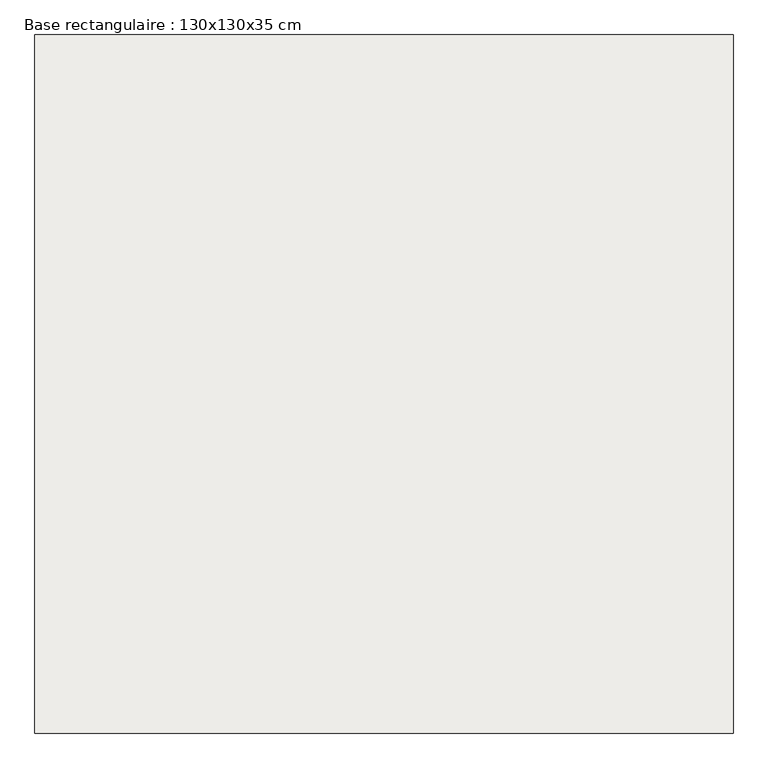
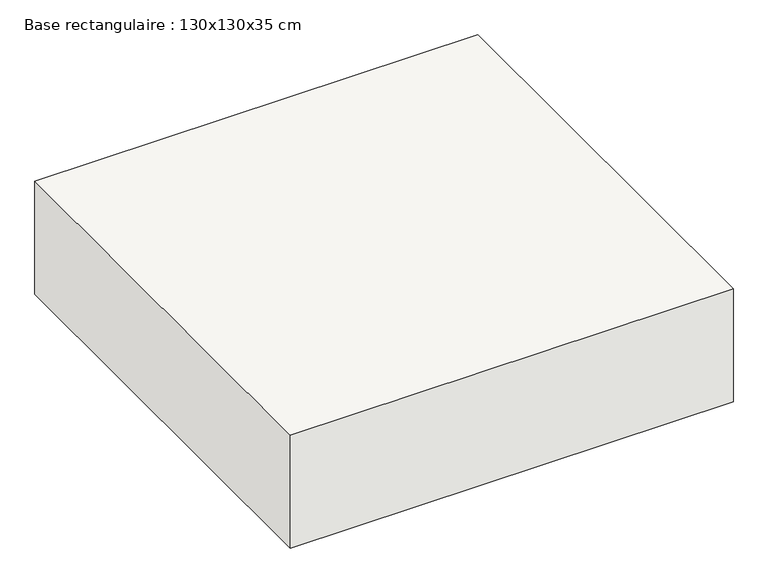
"""IFC4 building model written with IfcOpenShell, lengths in millimetres: slab geometry, Base rectangulaire : 130x130x35 cm."""

from ifc_helpers import new_model, si_unit, frame, origin, place, context, project, spatial, polyline, outline, extrude, source, transform, mapped, element, save


def base_rectangulaire_130x130x35_cm_f800fba0(model_context):
    return source(origin(), model_context, "Body", "SweptSolid", [
        extrude(outline(polyline([(650.0, 650.0), (650.0, -650.0), (-650.0, -650.0), (-650.0, 650.0), (650.0, 650.0)])), frame((0.0, 0.0, -350.0), z_axis=(0.0, 0.0, 1.0), x_axis=(1.0, 0.0, 0.0)), (0.0, 0.0, 1.0), 350.0),
        extrude(outline(polyline([(650.0, 650.0), (650.0, -650.0), (-650.0, -650.0), (-650.0, 650.0), (650.0, 650.0)])), frame((0.0, 0.0, -350.0), z_axis=(0.0, 0.0, 1.0), x_axis=(1.0, 0.0, 0.0)), (0.0, 0.0, 1.0), 350.0),
    ])


if __name__ == "__main__":
    model = new_model("IFC4")
    model_context = context("Model", 3, world=origin())
    ifc_project = project(units=[si_unit("LENGTHUNIT", "METRE", prefix="MILLI")], contexts=[model_context])
    site = spatial("IfcSite", under=ifc_project)
    building = spatial("IfcBuilding", under=site)
    placement = place(None, origin())
    base_rectangulaire_130x130x35_cm_shape = base_rectangulaire_130x130x35_cm_f800fba0(model_context)
    element("IfcSlab", 1, ObjectType="Base rectangulaire : 130x130x35 cm", at=placement, inside=building, context=model_context, shape_type="MappedRepresentation", body=[
        mapped(base_rectangulaire_130x130x35_cm_shape, transform((0.0, 0.0, 0.0), x_axis=(1.0, 0.0, 0.0), y_axis=(0.0, 1.0, 0.0), z_axis=(0.0, 0.0, 1.0))),
    ])
    save(model, "model.ifc")
